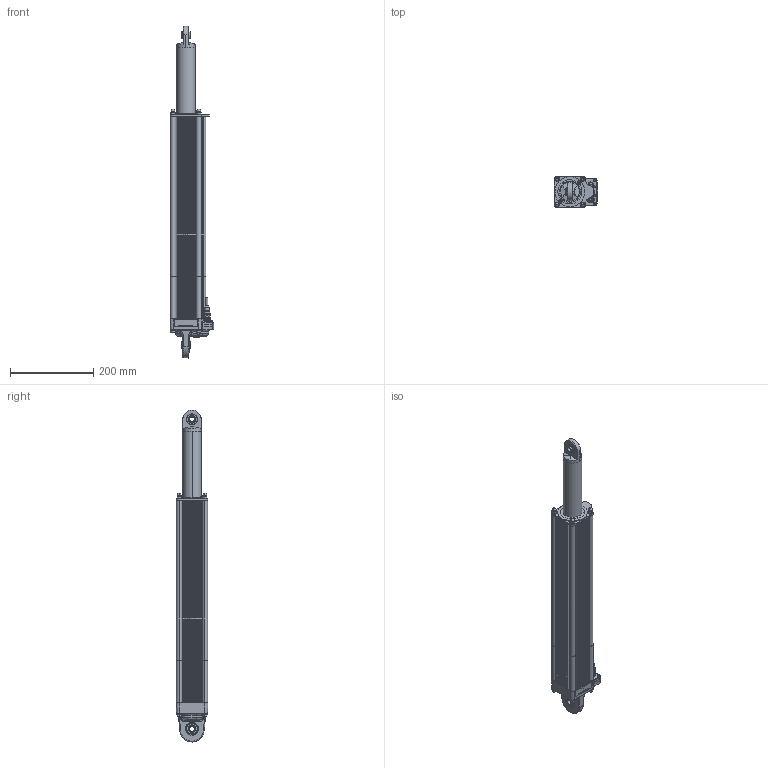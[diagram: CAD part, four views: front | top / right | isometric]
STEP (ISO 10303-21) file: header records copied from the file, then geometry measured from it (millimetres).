
FILE_DESCRIPTION (( 'STEP AP214' ), '1' );
FILE_NAME ('AG_9343.STEP', '2022-07-26T08:58:06', ( '' ), ( '' ), 'SwSTEP 2.0', 'SolidWorks 2019', '' );
FILE_SCHEMA (( 'AUTOMOTIVE_DESIGN' ));
Length unit declared in the file: millimetre
Products named in the file (1): AG_9343
Bounding box: 105.43 x 76.28 x 799.5 mm (x, y, z)
Volume: 2786979.1 mm3; surface area: 554988.8 mm2
Topology: 56 solids, 56 shells, 3303 faces, 8950 edges, 5897 vertices
Faces by surface type: plane 1347, cylinder 1299, bspline 309, cone 246, torus 60, sphere 42
Entity records: 163344 total; most frequent: CARTESIAN_POINT 44334, ORIENTED_EDGE 17740, DIRECTION 16649, EDGE_CURVE 8870, AXIS2_PLACEMENT_3D 6071, VERTEX_POINT 5877, LINE 4507, VECTOR 4507
